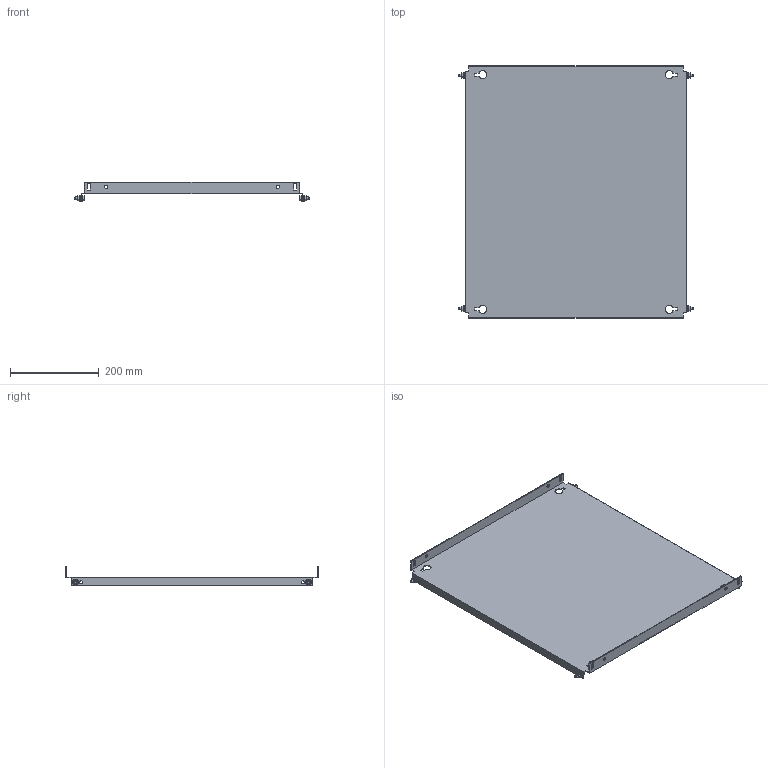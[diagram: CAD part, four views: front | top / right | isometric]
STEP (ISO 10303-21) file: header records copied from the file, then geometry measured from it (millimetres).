
FILE_DESCRIPTION(('Open CASCADE Model'),'2;1');
FILE_NAME('Open CASCADE Shape Model','2025-02-20T13:24:39',('Author'),( 'Open CASCADE'),'Open CASCADE STEP processor 7.8','Open CASCADE 7.8' ,'Unknown');
FILE_SCHEMA(('AUTOMOTIVE_DESIGN { 1 0 10303 214 1 1 1 1 }'));
Length unit declared in the file: millimetre
Products named in the file (4): Compound1; Solid1; Solid2; Solid3
Assembly tree (9 placements, depth 2):
  Compound1
    Solid1
    Solid2  x4
    Solid3  x4
Bounding box: 528 x 569 x 43 mm (x, y, z)
Volume: 653903.7 mm3; surface area: 659005.8 mm2
Topology: 9 solids, 9 shells, 306 faces, 746 edges, 462 vertices
Faces by surface type: plane 150, cone 68, bspline 48, cylinder 28, torus 12
Full cylindrical faces by diameter (mm): 5 x4, 6 x8, 7 x12
Entity records: 4844 total; most frequent: CARTESIAN_POINT 1361, ORIENTED_EDGE 742, DIRECTION 628, EDGE_CURVE 371, VERTEX_POINT 240, LINE 216, VECTOR 216, AXIS2_PLACEMENT_3D 206
